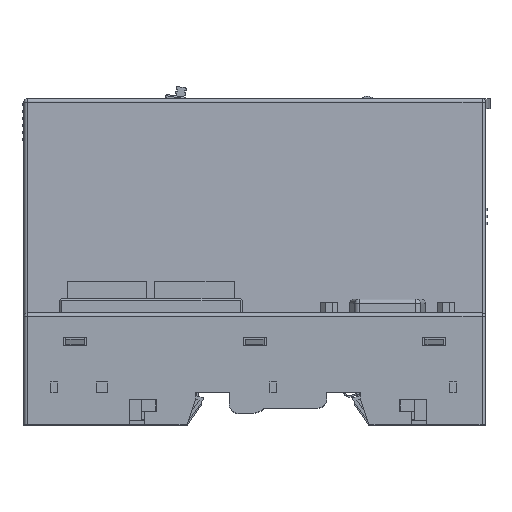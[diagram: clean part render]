
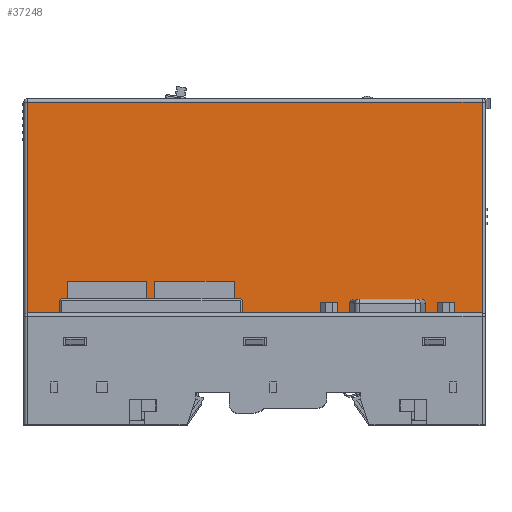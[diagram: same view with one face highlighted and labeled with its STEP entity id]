
A CAD part, top view. The second image highlights one B-rep face of the part: STEP entity #37248.
In plain terms, the highlighted planar face has unit normal (0, 0.018, 1).
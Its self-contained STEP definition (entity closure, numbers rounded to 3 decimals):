
#11567=DIRECTION('',(0.,-1.,0.017));
#11568=VECTOR('',#11567,45.27);
#11569=CARTESIAN_POINT('',(48.75,69.263,29.175));
#11570=LINE('',#11569,#11568);
#11571=DIRECTION('',(-1.,0.,0.));
#11572=VECTOR('',#11571,97.5);
#11573=CARTESIAN_POINT('',(48.75,24.,29.965));
#11574=LINE('',#11573,#11572);
#11575=DIRECTION('',(0.,1.,-0.017));
#11576=VECTOR('',#11575,45.27);
#11577=CARTESIAN_POINT('',(-48.75,24.,29.965));
#11578=LINE('',#11577,#11576);
#11579=DIRECTION('',(1.,0.,0.));
#11580=VECTOR('',#11579,97.5);
#11581=CARTESIAN_POINT('',(-48.75,69.263,29.175));
#11582=LINE('',#11581,#11580);
#19059=CARTESIAN_POINT('',(48.75,24.,29.965));
#19061=VERTEX_POINT('',#19059);
#19062=CARTESIAN_POINT('',(48.75,69.263,29.175));
#19063=VERTEX_POINT('',#19062);
#19068=CARTESIAN_POINT('',(-48.75,69.263,29.175));
#19069=VERTEX_POINT('',#19068);
#19070=CARTESIAN_POINT('',(-48.75,24.,29.965));
#19071=VERTEX_POINT('',#19070);
#37234=CARTESIAN_POINT('',(-51.102,22.,30.));
#37235=DIRECTION('',(0.,-0.017,-1.));
#37236=DIRECTION('',(-1.,0.,0.));
#37237=AXIS2_PLACEMENT_3D('',#37234,#37235,#37236);
#37238=PLANE('',#37237);
#37240=ORIENTED_EDGE('',*,*,#37239,.T.);
#37242=ORIENTED_EDGE('',*,*,#37241,.T.);
#37244=ORIENTED_EDGE('',*,*,#37243,.T.);
#37245=ORIENTED_EDGE('',*,*,#37227,.T.);
#37246=EDGE_LOOP('',(#37240,#37242,#37244,#37245));
#37247=FACE_OUTER_BOUND('',#37246,.F.);
#37248=ADVANCED_FACE('',(#37247),#37238,.F.);
#37227=EDGE_CURVE('',#19069,#19063,#11582,.T.);
#37239=EDGE_CURVE('',#19063,#19061,#11570,.T.);
#37241=EDGE_CURVE('',#19061,#19071,#11574,.T.);
#37243=EDGE_CURVE('',#19071,#19069,#11578,.T.);
